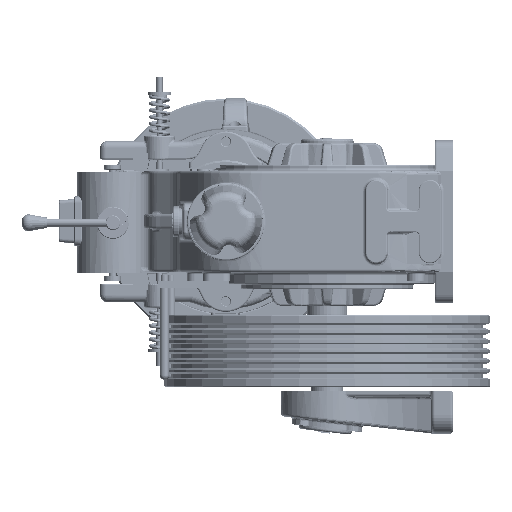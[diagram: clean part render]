
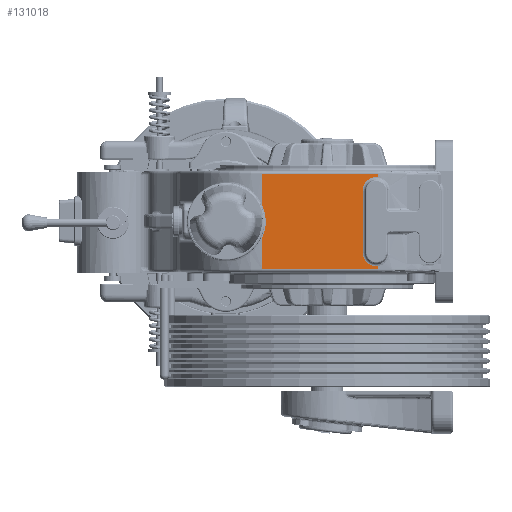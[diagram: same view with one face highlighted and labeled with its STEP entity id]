
A CAD part, left-side view. The second image highlights one B-rep face of the part: STEP entity #131018.
In plain terms, the highlighted planar face has unit normal (-1, 0, 0).
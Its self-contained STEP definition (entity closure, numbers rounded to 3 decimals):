
#4157 = CARTESIAN_POINT ( 'NONE',  ( -468.28, -234.729, -16.455 ) ) ;
#5936 = CARTESIAN_POINT ( 'NONE',  ( -468.28, -48.63, -21.455 ) ) ;
#9678 = EDGE_CURVE ( 'NONE', #224150, #80517, #48631, .T. ) ;
#10974 = VERTEX_POINT ( 'NONE', #13608 ) ;
#11150 = ORIENTED_EDGE ( 'NONE', *, *, #170806, .T. ) ;
#13608 = CARTESIAN_POINT ( 'NONE',  ( -468.28, -212.229, 106.045 ) ) ;
#14494 = DIRECTION ( 'NONE',  ( 0., 0., -1. ) ) ;
#15462 = ORIENTED_EDGE ( 'NONE', *, *, #177200, .T. ) ;
#16256 = DIRECTION ( 'NONE',  ( 0., 0., -1. ) ) ;
#16757 = CARTESIAN_POINT ( 'NONE',  ( -468.28, -234.729, 6.045 ) ) ;
#17147 = VERTEX_POINT ( 'NONE', #167054 ) ;
#22309 = DIRECTION ( 'NONE',  ( 1., 0., 0. ) ) ;
#23728 = ORIENTED_EDGE ( 'NONE', *, *, #230411, .T. ) ;
#28604 = EDGE_CURVE ( 'NONE', #282355, #224150, #205048, .T. ) ;
#29627 = DIRECTION ( 'NONE',  ( 0., 0., -1. ) ) ;
#33447 = CARTESIAN_POINT ( 'NONE',  ( -468.28, -212.229, 106.045 ) ) ;
#35830 = CARTESIAN_POINT ( 'NONE',  ( -468.28, -237.748, -16.251 ) ) ;
#44962 = CARTESIAN_POINT ( 'NONE',  ( -468.28, -237.748, 138.545 ) ) ;
#48631 = CIRCLE ( 'NONE', #68046, 65. ) ;
#49689 = AXIS2_PLACEMENT_3D ( 'NONE', #172683, #62407, #195392 ) ;
#54998 = EDGE_CURVE ( 'NONE', #285147, #10974, #57558, .T. ) ;
#57558 = LINE ( 'NONE', #33447, #159232 ) ;
#62407 = DIRECTION ( 'NONE',  ( 1., 0., 0. ) ) ;
#64751 = LINE ( 'NONE', #205224, #140450 ) ;
#66373 = VERTEX_POINT ( 'NONE', #77096 ) ;
#67625 = FACE_OUTER_BOUND ( 'NONE', #275583, .T. ) ;
#67857 = ORIENTED_EDGE ( 'NONE', *, *, #103544, .T. ) ;
#68046 = AXIS2_PLACEMENT_3D ( 'NONE', #288108, #146251, #79782 ) ;
#68298 = ORIENTED_EDGE ( 'NONE', *, *, #28604, .T. ) ;
#76342 = VECTOR ( 'NONE', #16256, 1000. ) ;
#76450 = CARTESIAN_POINT ( 'NONE',  ( -468.28, -234.729, 6.045 ) ) ;
#77096 = CARTESIAN_POINT ( 'NONE',  ( -468.28, -237.748, -21.455 ) ) ;
#77580 = ORIENTED_EDGE ( 'NONE', *, *, #135680, .F. ) ;
#79782 = DIRECTION ( 'NONE',  ( 0., 0., -1. ) ) ;
#80517 = VERTEX_POINT ( 'NONE', #228997 ) ;
#87767 = DIRECTION ( 'NONE',  ( 0., 0., -1. ) ) ;
#98015 = CIRCLE ( 'NONE', #49689, 22.5 ) ;
#100562 = DIRECTION ( 'NONE',  ( 1., 0., 0. ) ) ;
#103544 = EDGE_CURVE ( 'NONE', #80517, #166180, #129260, .T. ) ;
#107001 = CARTESIAN_POINT ( 'NONE',  ( -468.28, -237.748, 133.545 ) ) ;
#114392 = DIRECTION ( 'NONE',  ( 0., 0., -1. ) ) ;
#129260 = LINE ( 'NONE', #245558, #212710 ) ;
#129742 = LINE ( 'NONE', #155362, #289516 ) ;
#131018 = ADVANCED_FACE ( 'NONE', ( #67625 ), #159695, .F. ) ;
#131141 = DIRECTION ( 'NONE',  ( 0., 1., 0. ) ) ;
#133987 = CIRCLE ( 'NONE', #249751, 22.5 ) ;
#135680 = EDGE_CURVE ( 'NONE', #17147, #267492, #64751, .T. ) ;
#138123 = ORIENTED_EDGE ( 'NONE', *, *, #197460, .T. ) ;
#140450 = VECTOR ( 'NONE', #252012, 1000. ) ;
#141494 = CARTESIAN_POINT ( 'NONE',  ( -468.28, -48.63, 133.545 ) ) ;
#146251 = DIRECTION ( 'NONE',  ( 1., 0., 0. ) ) ;
#155362 = CARTESIAN_POINT ( 'NONE',  ( -468.28, -237.748, -21.455 ) ) ;
#159232 = VECTOR ( 'NONE', #281181, 1000. ) ;
#159695 = PLANE ( 'NONE',  #206699 ) ;
#159712 = VERTEX_POINT ( 'NONE', #35830 ) ;
#166180 = VERTEX_POINT ( 'NONE', #5936 ) ;
#167054 = CARTESIAN_POINT ( 'NONE',  ( -468.28, -237.748, 133.545 ) ) ;
#170806 = EDGE_CURVE ( 'NONE', #10974, #267492, #98015, .T. ) ;
#171236 = CARTESIAN_POINT ( 'NONE',  ( -468.28, -237.748, 128.342 ) ) ;
#172683 = CARTESIAN_POINT ( 'NONE',  ( -468.28, -234.729, 106.045 ) ) ;
#177200 = EDGE_CURVE ( 'NONE', #267035, #285147, #133987, .T. ) ;
#181333 = DIRECTION ( 'NONE',  ( 1., 0., 0. ) ) ;
#195392 = DIRECTION ( 'NONE',  ( 0., 0., -1. ) ) ;
#197460 = EDGE_CURVE ( 'NONE', #159712, #267035, #280543, .T. ) ;
#203415 = AXIS2_PLACEMENT_3D ( 'NONE', #16757, #181333, #87767 ) ;
#205048 = LINE ( 'NONE', #226217, #76342 ) ;
#205224 = CARTESIAN_POINT ( 'NONE',  ( -468.28, -237.748, 138.545 ) ) ;
#206699 = AXIS2_PLACEMENT_3D ( 'NONE', #44962, #22309, #114392 ) ;
#211813 = CARTESIAN_POINT ( 'NONE',  ( -468.28, -237.748, 138.545 ) ) ;
#212710 = VECTOR ( 'NONE', #14494, 1000. ) ;
#214814 = ORIENTED_EDGE ( 'NONE', *, *, #252598, .F. ) ;
#217803 = EDGE_CURVE ( 'NONE', #17147, #282355, #250434, .T. ) ;
#220037 = CARTESIAN_POINT ( 'NONE',  ( -468.28, -212.229, 6.045 ) ) ;
#221907 = DIRECTION ( 'NONE',  ( 0., -1., 0. ) ) ;
#222869 = CARTESIAN_POINT ( 'NONE',  ( -468.28, -48.63, 83.534 ) ) ;
#224150 = VERTEX_POINT ( 'NONE', #222869 ) ;
#226217 = CARTESIAN_POINT ( 'NONE',  ( -468.28, -48.63, 138.545 ) ) ;
#228997 = CARTESIAN_POINT ( 'NONE',  ( -468.28, -48.63, 28.556 ) ) ;
#230411 = EDGE_CURVE ( 'NONE', #166180, #66373, #129742, .T. ) ;
#232975 = LINE ( 'NONE', #211813, #264665 ) ;
#245558 = CARTESIAN_POINT ( 'NONE',  ( -468.28, -48.63, 138.545 ) ) ;
#247294 = ORIENTED_EDGE ( 'NONE', *, *, #217803, .T. ) ;
#249751 = AXIS2_PLACEMENT_3D ( 'NONE', #76450, #100562, #29627 ) ;
#250434 = LINE ( 'NONE', #107001, #286800 ) ;
#252012 = DIRECTION ( 'NONE',  ( 0., 0., -1. ) ) ;
#252598 = EDGE_CURVE ( 'NONE', #159712, #66373, #232975, .T. ) ;
#264279 = ORIENTED_EDGE ( 'NONE', *, *, #54998, .T. ) ;
#264665 = VECTOR ( 'NONE', #281179, 1000. ) ;
#267035 = VERTEX_POINT ( 'NONE', #4157 ) ;
#267492 = VERTEX_POINT ( 'NONE', #171236 ) ;
#273664 = ORIENTED_EDGE ( 'NONE', *, *, #9678, .T. ) ;
#275583 = EDGE_LOOP ( 'NONE', ( #68298, #273664, #67857, #23728, #214814, #138123, #15462, #264279, #11150, #77580, #247294 ) ) ;
#280543 = CIRCLE ( 'NONE', #203415, 22.5 ) ;
#281179 = DIRECTION ( 'NONE',  ( 0., 0., -1. ) ) ;
#281181 = DIRECTION ( 'NONE',  ( 0., 0., 1. ) ) ;
#282355 = VERTEX_POINT ( 'NONE', #141494 ) ;
#285147 = VERTEX_POINT ( 'NONE', #220037 ) ;
#286800 = VECTOR ( 'NONE', #131141, 1000. ) ;
#288108 = CARTESIAN_POINT ( 'NONE',  ( -468.28, 10.271, 56.045 ) ) ;
#289516 = VECTOR ( 'NONE', #221907, 1000. ) ;
